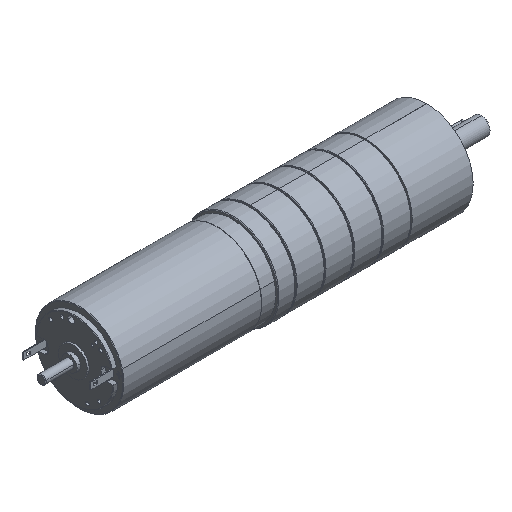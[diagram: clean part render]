
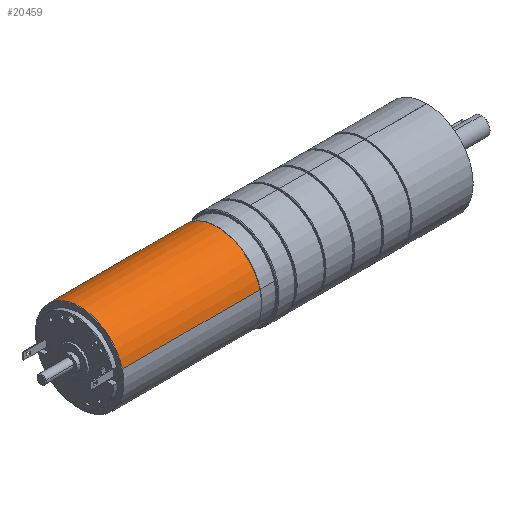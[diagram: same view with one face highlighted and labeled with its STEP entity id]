
A CAD part, isometric view. The second image highlights one B-rep face of the part: STEP entity #20459.
In plain terms, the highlighted cylindrical face has radius 20 mm (diameter 40 mm), a partial arc.
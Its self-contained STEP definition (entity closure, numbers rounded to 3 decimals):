
#3188 = VECTOR ( 'NONE', #25942, 1000. ) ;
#3421 = EDGE_CURVE ( 'NONE', #6207, #24274, #18068, .T. ) ;
#4638 = DIRECTION ( 'NONE',  ( -1., 0., 0. ) ) ;
#4827 = CIRCLE ( 'NONE', #27851, 20. ) ;
#4936 = CARTESIAN_POINT ( 'NONE',  ( 0., 0., 0. ) ) ;
#5331 = VECTOR ( 'NONE', #4638, 1000. ) ;
#6207 = VERTEX_POINT ( 'NONE', #9042 ) ;
#7757 = CIRCLE ( 'NONE', #17349, 20. ) ;
#8027 = FACE_OUTER_BOUND ( 'NONE', #22688, .T. ) ;
#8368 = DIRECTION ( 'NONE',  ( -1., 0., 0. ) ) ;
#8707 = EDGE_CURVE ( 'NONE', #10921, #24274, #7757, .T. ) ;
#8737 = ORIENTED_EDGE ( 'NONE', *, *, #20783, .T. ) ;
#9042 = CARTESIAN_POINT ( 'NONE',  ( 89.1, 0., 20. ) ) ;
#9239 = LINE ( 'NONE', #21413, #3188 ) ;
#9449 = AXIS2_PLACEMENT_3D ( 'NONE', #4936, #29106, #15815 ) ;
#9625 = CARTESIAN_POINT ( 'NONE',  ( 26.8, 0., -20. ) ) ;
#10496 = CARTESIAN_POINT ( 'NONE',  ( 89.1, 0., 0. ) ) ;
#10921 = VERTEX_POINT ( 'NONE', #9625 ) ;
#12769 = DIRECTION ( 'NONE',  ( 0., 0., 1. ) ) ;
#14705 = CARTESIAN_POINT ( 'NONE',  ( 26.8, 0., 20. ) ) ;
#15815 = DIRECTION ( 'NONE',  ( 0., 0., 1. ) ) ;
#17349 = AXIS2_PLACEMENT_3D ( 'NONE', #21904, #8368, #24170 ) ;
#17684 = ORIENTED_EDGE ( 'NONE', *, *, #8707, .F. ) ;
#18068 = LINE ( 'NONE', #18186, #5331 ) ;
#18149 = CARTESIAN_POINT ( 'NONE',  ( 89.1, 0., -20. ) ) ;
#18186 = CARTESIAN_POINT ( 'NONE',  ( 0., 0., 20. ) ) ;
#20459 = ADVANCED_FACE ( 'NONE', ( #8027 ), #29171, .T. ) ;
#20783 = EDGE_CURVE ( 'NONE', #23151, #6207, #4827, .T. ) ;
#21413 = CARTESIAN_POINT ( 'NONE',  ( 0., 0., -20. ) ) ;
#21904 = CARTESIAN_POINT ( 'NONE',  ( 26.8, 0., 0. ) ) ;
#22688 = EDGE_LOOP ( 'NONE', ( #26131, #8737, #26444, #17684 ) ) ;
#23151 = VERTEX_POINT ( 'NONE', #18149 ) ;
#24170 = DIRECTION ( 'NONE',  ( 0., 0., 1. ) ) ;
#24274 = VERTEX_POINT ( 'NONE', #14705 ) ;
#25918 = EDGE_CURVE ( 'NONE', #23151, #10921, #9239, .T. ) ;
#25942 = DIRECTION ( 'NONE',  ( -1., 0., 0. ) ) ;
#26131 = ORIENTED_EDGE ( 'NONE', *, *, #25918, .F. ) ;
#26260 = DIRECTION ( 'NONE',  ( -1., 0., 0. ) ) ;
#26444 = ORIENTED_EDGE ( 'NONE', *, *, #3421, .T. ) ;
#27851 = AXIS2_PLACEMENT_3D ( 'NONE', #10496, #26260, #12769 ) ;
#29106 = DIRECTION ( 'NONE',  ( -1., 0., 0. ) ) ;
#29171 = CYLINDRICAL_SURFACE ( 'NONE', #9449, 20. ) ;
